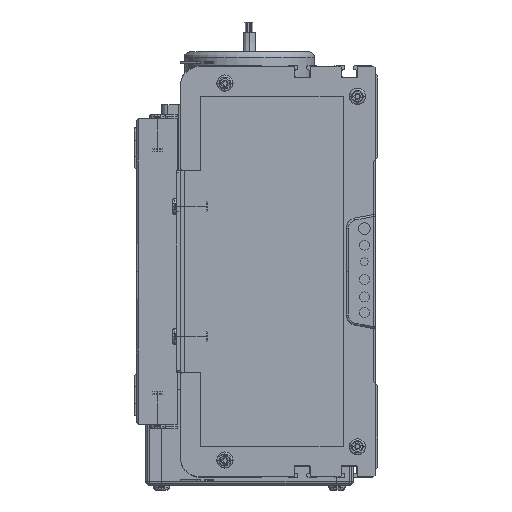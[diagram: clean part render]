
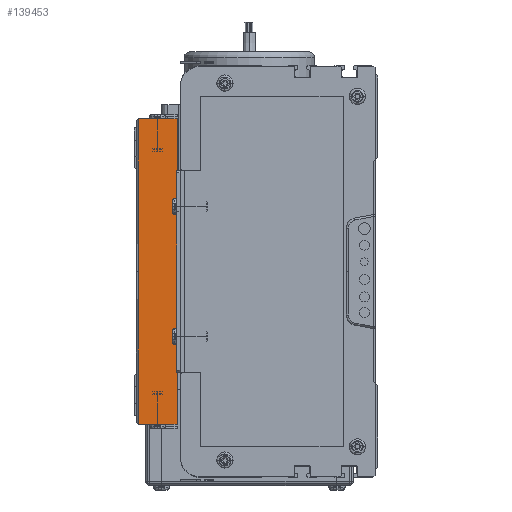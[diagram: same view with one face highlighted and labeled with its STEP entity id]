
A CAD part, left-side view. The second image highlights one B-rep face of the part: STEP entity #139453.
In plain terms, the highlighted planar face has unit normal (-1, 0, 0).
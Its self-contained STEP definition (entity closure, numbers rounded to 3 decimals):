
#11300 = DIRECTION ( 'NONE',  ( 0., 0., -1. ) ) ;
#11301 = VECTOR ( 'NONE', #11300, 1000. ) ;
#11302 = CARTESIAN_POINT ( 'NONE',  ( 0., 19., 0. ) ) ;
#11356 = LINE ( 'NONE', #11302, #11301 ) ;
#11643 = DIRECTION ( 'NONE',  ( 0., -1., 0. ) ) ;
#11734 = VECTOR ( 'NONE', #11643, 1000. ) ;
#11735 = CARTESIAN_POINT ( 'NONE',  ( 0., 20., -75. ) ) ;
#11736 = LINE ( 'NONE', #11735, #11734 ) ;
#84886 = CARTESIAN_POINT ( 'NONE',  ( 0., 0., 75. ) ) ;
#86316 = CARTESIAN_POINT ( 'NONE',  ( 0., 0., -75. ) ) ;
#86346 = DIRECTION ( 'NONE',  ( 0., 0., 1. ) ) ;
#86347 = VECTOR ( 'NONE', #86346, 1000. ) ;
#86513 = CARTESIAN_POINT ( 'NONE',  ( 0., 0., 0. ) ) ;
#86516 = LINE ( 'NONE', #86513, #86347 ) ;
#91899 = DIRECTION ( 'NONE',  ( 0., -1., 0. ) ) ;
#91900 = VECTOR ( 'NONE', #91899, 1000. ) ;
#92030 = CARTESIAN_POINT ( 'NONE',  ( 0., 20., 75. ) ) ;
#92032 = LINE ( 'NONE', #92030, #91900 ) ;
#92840 = CARTESIAN_POINT ( 'NONE',  ( 0., 19., 75. ) ) ;
#124929 = CARTESIAN_POINT ( 'NONE',  ( 0., 19., 0. ) ) ;
#135134 = AXIS2_PLACEMENT_3D ( 'NONE', #135430, #135499, #135369 ) ;
#135369 = DIRECTION ( 'NONE',  ( 0., 0., -1. ) ) ;
#135430 = CARTESIAN_POINT ( 'NONE',  ( 0., 20., 0. ) ) ;
#135499 = DIRECTION ( 'NONE',  ( 1., 0., 0. ) ) ;
#135561 = FACE_OUTER_BOUND ( 'NONE', #139253, .T. ) ;
#135579 = PLANE ( 'NONE',  #135134 ) ;
#136632 = VERTEX_POINT ( 'NONE', #84886 ) ;
#136721 = EDGE_CURVE ( 'NONE', #136739, #136632, #86516, .T. ) ;
#136739 = VERTEX_POINT ( 'NONE', #86316 ) ;
#137025 = CARTESIAN_POINT ( 'NONE',  ( 0., 19., 0. ) ) ;
#137101 = DIRECTION ( 'NONE',  ( 0., 0., -1. ) ) ;
#137102 = VECTOR ( 'NONE', #137101, 1000. ) ;
#137298 = EDGE_CURVE ( 'NONE', #137379, #136632, #92032, .T. ) ;
#137379 = VERTEX_POINT ( 'NONE', #92840 ) ;
#137380 = LINE ( 'NONE', #137025, #137102 ) ;
#138189 = CARTESIAN_POINT ( 'NONE',  ( 0., 19., -75. ) ) ;
#138722 = ORIENTED_EDGE ( 'NONE', *, *, #138728, .T. ) ;
#138728 = EDGE_CURVE ( 'NONE', #137379, #139383, #11356, .T. ) ;
#138877 = EDGE_CURVE ( 'NONE', #139694, #136739, #11736, .T. ) ;
#139219 = ORIENTED_EDGE ( 'NONE', *, *, #137298, .F. ) ;
#139253 = EDGE_LOOP ( 'NONE', ( #139219, #138722, #139391, #139305, #139328 ) ) ;
#139305 = ORIENTED_EDGE ( 'NONE', *, *, #138877, .T. ) ;
#139326 = EDGE_CURVE ( 'NONE', #139383, #139694, #137380, .T. ) ;
#139328 = ORIENTED_EDGE ( 'NONE', *, *, #136721, .T. ) ;
#139383 = VERTEX_POINT ( 'NONE', #124929 ) ;
#139391 = ORIENTED_EDGE ( 'NONE', *, *, #139326, .T. ) ;
#139453 = ADVANCED_FACE ( 'NONE', ( #135561 ), #135579, .F. ) ;
#139694 = VERTEX_POINT ( 'NONE', #138189 ) ;
